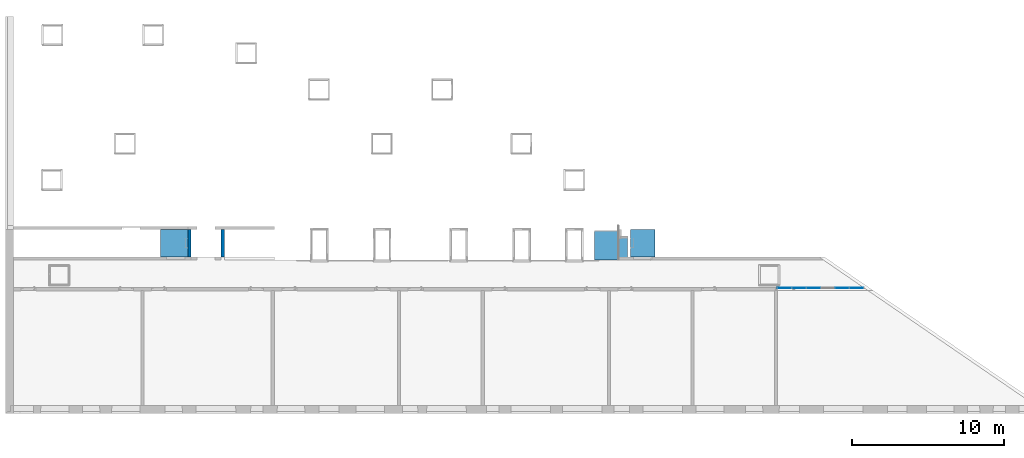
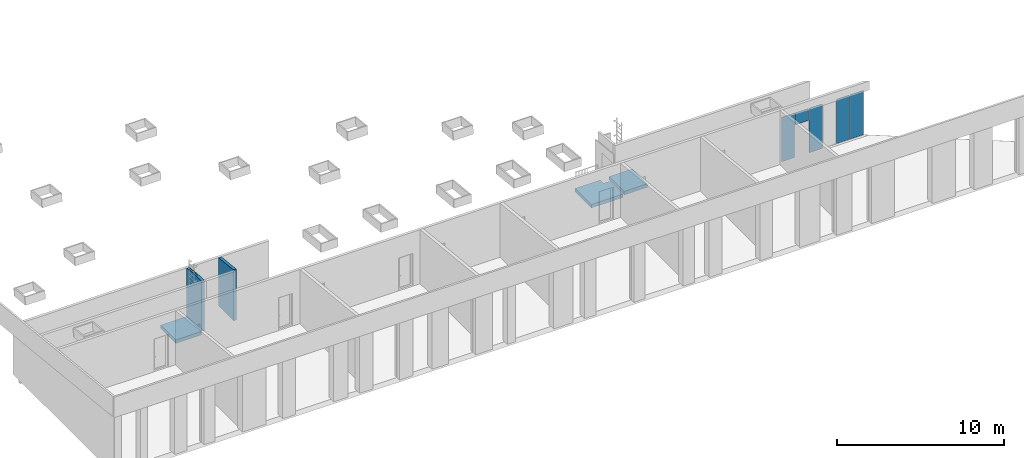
# One storey, part 2 of 23: 5 plates, 3 stairs, 2 walls, 1 element without a shape of its own.
"""IFC2X3 building model written with IfcOpenShell, lengths in millimetres."""

from ifc_helpers import new_model, entity, si_unit, converted_unit, derived_unit, money_unit, direction, frame, origin_with_axes, place, context, subcontext, project, spatial, faceted_brep, source, transform, mapped, material, type_object, element, aggregate, save


model = new_model("IFC2X3")

# Units and contexts
model_context = context("Model", 3, precision=0.01, world=origin_with_axes(), true_north=direction((0.0, 1.0)))
body_context = subcontext(model_context, "Body", "Model", "MODEL_VIEW")
ifc_project = project(units=[si_unit("LENGTHUNIT", "METRE", prefix="MILLI"), si_unit("AREAUNIT", "SQUARE_METRE"), si_unit("VOLUMEUNIT", "CUBIC_METRE"), converted_unit("PLANEANGLEUNIT", "DEGREE", entity("IfcPlaneAngleMeasure", 0.0174532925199), si_unit("PLANEANGLEUNIT", "RADIAN"), dimensions=[0, 0, 0, 0, 0, 0, 0]), si_unit("SOLIDANGLEUNIT", "STERADIAN"), money_unit("EUR"), converted_unit("TIMEUNIT", "Year", entity("IfcTimeMeasure", 31556926.0), si_unit("TIMEUNIT", "SECOND"), dimensions=[0, 0, 1, 0, 0, 0, 0]), si_unit("MASSUNIT", "GRAM", prefix="KILO"), si_unit("THERMODYNAMICTEMPERATUREUNIT", "DEGREE_CELSIUS"), si_unit("LUMINOUSINTENSITYUNIT", "LUMEN"), si_unit("ENERGYUNIT", "JOULE", prefix="MEGA"), derived_unit("THERMALCONDUCTANCEUNIT", [(si_unit("POWERUNIT", "WATT"), 1), (si_unit("LENGTHUNIT", "METRE"), -1), (si_unit("THERMODYNAMICTEMPERATUREUNIT", "KELVIN"), -1)]), derived_unit("SPECIFICHEATCAPACITYUNIT", [(si_unit("ENERGYUNIT", "JOULE"), 1), (si_unit("MASSUNIT", "GRAM", prefix="KILO"), -1), (si_unit("THERMODYNAMICTEMPERATUREUNIT", "KELVIN"), -1)]), derived_unit("MASSDENSITYUNIT", [(si_unit("MASSUNIT", "GRAM", prefix="KILO"), 1), (si_unit("VOLUMEUNIT", "CUBIC_METRE"), -1)])], contexts=[model_context])

# Site, building, storey
site_placement = place(None, origin_with_axes())
site = spatial("IfcSite", under=ifc_project, at=site_placement, Name="L.Koidula tn 11b", CompositionType="ELEMENT")
building_placement = place(site_placement, origin_with_axes())
building = spatial("IfcBuilding", under=site, at=building_placement, Name="Rakvere Riigigümnaasium", CompositionType="ELEMENT")
storey_placement = place(building_placement, frame((0.0, 0.0, 7440.0), z_axis=(0.0, 0.0, 1.0), x_axis=(1.0, 0.0, 0.0)))
storey = spatial("IfcBuildingStorey", under=building, at=storey_placement, Name="3.korrus +7,44", CompositionType="ELEMENT", Elevation=7440.0)

# Curtain wall, plates
curtain_wall_type = type_object("IfcCurtainWallType", Name="Curtain Wall Type", PredefinedType="NOTDEFINED")
curtain_wall_placement = place(storey_placement, frame((90131.4965427, 13261.4543717, 0.0), z_axis=(0.0, 0.0, 1.0), x_axis=(1.0, 0.0, 0.0)))
curtain_wall = element("IfcCurtainWall", 1, at=curtain_wall_placement, inside=storey, type_object=curtain_wall_type, Name="SKLF-30")
ifc_material_1 = material(Name="VKR-05_Klaas")
plate_type = type_object("IfcPlateType", Name="Siseklaasfassaad - Klaas 17 917 x 870 x 0", PredefinedType="CURTAIN_PANEL")
shared_shape = source(origin_with_axes(), body_context, "Body", "Brep", [
    faceted_brep([(931.999965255, 3270.00005635, -15.5), (15.0000063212, 3270.00005635, -15.5), (15.0000063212, 3270.00005635, 1.5), (931.999965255, 3270.00005635, 1.5), (931.999965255, 15.0000063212, -15.5), (15.0000063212, 15.0000063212, -15.5), (15.0000063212, 15.0000063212, 1.5), (931.999965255, 15.0000063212, 1.5)], [[[0, 1, 2, 3]], [[0, 4, 5, 1]], [[1, 5, 6, 2]], [[3, 2, 6, 7]], [[4, 0, 3, 7]], [[5, 4, 7, 6]]]),
])
plate_1_placement = place(curtain_wall_placement, frame((0.0, 0.0, 1895.00002089), z_axis=(0.0, 0.0, 1.0), x_axis=(1.0, 0.0, 0.0)))
plate_1 = element("IfcPlate", 2, at=plate_1_placement, type_object=plate_type, material=ifc_material_1, Name="Panel-Siseklaasf-027", ObjectType="CURTAIN_PANEL", context=body_context, shape_type="MappedRepresentation", body=[
    mapped(shared_shape, transform((473.5, 0.0, -1895.00002089), x_axis=(-1.0, 0.0, 0.0), y_axis=(0.0, 0.0, 1.0), z_axis=(0.0, 1.0, 0.0))),
])
plate_2_placement = place(curtain_wall_placement, frame((947.0, 0.0, 1895.00002089), z_axis=(0.0, 0.0, 1.0), x_axis=(1.0, 0.0, 0.0)))
plate_2 = element("IfcPlate", 3, at=plate_2_placement, type_object=plate_type, material=ifc_material_1, Name="Panel-Siseklaasf-016", ObjectType="CURTAIN_PANEL", context=body_context, shape_type="MappedRepresentation", body=[
    mapped(shared_shape, transform((473.5, 0.0, -1895.00002089), x_axis=(-1.0, 0.0, 0.0), y_axis=(0.0, 0.0, 1.0), z_axis=(0.0, 1.0, 0.0))),
])
plate_3_placement = place(curtain_wall_placement, frame((-2841.0, 0.0, 2842.50003134), z_axis=(0.0, 0.0, 1.0), x_axis=(1.0, 0.0, 0.0)))
plate_3 = element("IfcPlate", 4, at=plate_3_placement, type_object=plate_type, material=ifc_material_1, Name="Panel-Siseklaasf-019", ObjectType="CURTAIN_PANEL", context=body_context, shape_type="Brep", body=[
    faceted_brep([(-458.499991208, -15.5, 427.500027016), (458.499991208, -15.5, 427.500027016), (458.499991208, 1.5, 427.500027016), (-458.499991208, 1.5, 427.500027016), (-458.499991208, -15.5, -442.500031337), (458.499991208, -15.5, -442.500031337), (458.499991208, 1.5, -442.500031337), (-458.499991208, 1.5, -442.500031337)], [[[0, 1, 2, 3]], [[0, 4, 5, 1]], [[1, 5, 6, 2]], [[3, 2, 6, 7]], [[4, 0, 3, 7]], [[5, 4, 7, 6]]]),
])
plate_4_placement = place(curtain_wall_placement, frame((-3728.92857143, 0.0, 1967.14287505), z_axis=(0.0, 0.0, 1.0), x_axis=(1.0, 0.0, 0.0)))
plate_4 = element("IfcPlate", 5, at=plate_4_placement, type_object=plate_type, material=ifc_material_1, Name="Panel-Siseklaasf-020", ObjectType="CURTAIN_PANEL", context=body_context, shape_type="Brep", body=[
    faceted_brep([(-517.571442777, -15.5, 1302.8571813), (399.428565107, -15.5, 1302.8571813), (399.428565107, 1.5, 1302.8571813), (-517.571442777, 1.5, 1302.8571813), (-517.571442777, -15.5, -1952.14286873), (384.428558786, -15.5, -1952.14286873), (384.428558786, -15.5, 432.857108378), (399.428565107, -15.5, 432.857108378), (399.428565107, 1.5, 432.857108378), (384.428558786, 1.5, 432.857108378), (384.428558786, 1.5, -1952.14286873), (-517.571442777, 1.5, -1952.14286873)], [[[0, 1, 2, 3]], [[0, 4, 5, 6, 7, 1]], [[1, 7, 8, 2]], [[3, 2, 8, 9, 10, 11]], [[4, 0, 3, 11]], [[5, 4, 11, 10]], [[6, 5, 10, 9]], [[7, 6, 9, 8]]]),
])
plate_5_placement = place(curtain_wall_placement, frame((-1953.07143045, 0.0, 1967.14287505), z_axis=(0.0, 0.0, 1.0), x_axis=(1.0, 0.0, 0.0)))
plate_5 = element("IfcPlate", 6, at=plate_5_placement, type_object=plate_type, material=ifc_material_1, Name="Panel-Siseklaasf-018", ObjectType="CURTAIN_PANEL", context=body_context, shape_type="Brep", body=[
    faceted_brep([(-399.428534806, -15.5, 1302.8571813), (517.571424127, -15.5, 1302.8571813), (517.571424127, 1.5, 1302.8571813), (-399.428534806, 1.5, 1302.8571813), (-399.428534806, -15.5, 432.857108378), (-384.428577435, -15.5, 432.857108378), (-384.428577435, -15.5, -1952.14286873), (517.571424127, -15.5, -1952.14286873), (517.571424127, 1.5, -1952.14286873), (-384.428577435, 1.5, -1952.14286873), (-384.428577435, 1.5, 432.857108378), (-399.428534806, 1.5, 432.857108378)], [[[0, 1, 2, 3]], [[0, 4, 5, 6, 7, 1]], [[1, 7, 8, 2]], [[3, 2, 8, 9, 10, 11]], [[4, 0, 3, 11]], [[5, 4, 11, 10]], [[6, 5, 10, 9]], [[7, 6, 9, 8]]]),
])
aggregate(curtain_wall, [plate_1, plate_2, plate_3, plate_4, plate_5])

# Walls
ifc_material_2 = material(Name="Betoon element / plaat")
wall_type = type_object("IfcWallType", Name="SS-01 200", PredefinedType="NOTDEFINED")
wall_1_placement = place(storey_placement, frame((47199.9999878, 17110.4555095, 0.0), z_axis=(0.0, 0.0, 1.0), x_axis=(0.0, -1.0, 0.0)))
element("IfcWall", 7, at=wall_1_placement, inside=storey, type_object=wall_type, material=ifc_material_2, Name="Sisesein", context=body_context, shape_type="Brep", body=[
    faceted_brep([(0.0, -200.0, 3526.26468425), (0.0, 0.0, 3526.26164834), (0.0, 0.0, 0.0), (0.0, -200.0, 0.0), (1326.44653616, 4.29989199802e-06, 3665.67679569), (310.594179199, -200.0, 3558.90944759), (310.608644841, -99.8389585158, 3558.90944759), (1326.43209585, -99.98566763, 3665.67679569), (1809.97697926, 5.86733506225e-06, 3665.67679569), (1809.97697926, 5.86733506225e-06, 0.0), (1809.97697926, -200.0, 0.0), (1809.97697926, -200.0, 3665.67679569), (310.594179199, -200.0, 3665.67679569), (310.608644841, -99.8389585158, 3665.67679569)], [[[0, 1, 2, 3]], [[4, 1, 0, 5, 6, 7]], [[1, 4, 8, 9, 2]], [[3, 2, 9, 10]], [[5, 0, 3, 10, 11, 12]], [[12, 13, 6, 5]], [[13, 7, 6]], [[13, 12, 11, 8, 4, 7]], [[10, 9, 8, 11]]]),
])
wall_2_placement = place(storey_placement, frame((49199.9999937, 15300.4785302, 0.0), z_axis=(0.0, 0.0, 1.0), x_axis=(1.03481462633e-09, 1.0, 0.0)))
element("IfcWall", 8, at=wall_2_placement, inside=storey, type_object=wall_type, material=ifc_material_2, Name="Sisesein", context=body_context, shape_type="Brep", body=[
    faceted_brep([(1809.97698667, 1.87299065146e-06, 3526.23128845), (1809.97698646, -199.999998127, 3526.22825258), (1809.9769864, -199.999998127, 0.0), (1809.97698661, 1.87299065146e-06, 0.0), (-8.31825275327e-07, -200.0, 3716.46449769), (-5.96046945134e-06, 0.0, 3716.46753412), (-5.75900749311e-06, -200.0, 0.0), (-5.96046945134e-06, 0.0, 0.0)], [[[0, 1, 2, 3]], [[4, 1, 0, 5]], [[1, 4, 6, 2]], [[6, 7, 3, 2]], [[5, 0, 3, 7]], [[4, 5, 7, 6]]]),
])

# Stairs
ifc_material_3 = material(Name="Betoon")
stair_1_placement = place(storey_placement, frame((47199.9999878, 15300.475806, 0.0), z_axis=(0.0, 0.0, 1.0), x_axis=(1.0, 0.0, 0.0)))
element("IfcStair", 9, at=stair_1_placement, inside=storey, material=ifc_material_3, Name="TR-05", ShapeType="NOTDEFINED", context=body_context, shape_type="Brep", body=[
    faceted_brep([(-1999.9999909, 0.0027242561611, 0.0), (-1999.9999909, 0.0027242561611, -250.0), (-199.999992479, -2.00794811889e-05, -250.0), (-199.999992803, -2.00794776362e-05, 0.0), (-1999.9999909, 1809.97968309, 0.0), (-1999.9999909, 1809.97968309, -250.0), (-199.999990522, 1809.97970299, -250.0), (-199.999993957, 1809.97970299, 0.0)], [[[0, 1, 2, 3]], [[4, 5, 1, 0]], [[6, 2, 1, 5]], [[7, 3, 2, 6]], [[7, 4, 0, 3]], [[6, 5, 4, 7]]]),
])
stair_2_placement = place(storey_placement, frame((75989.9798207, 15300.4789529, 0.0), z_axis=(0.0, 0.0, 1.0), x_axis=(1.0, 0.0, 0.0)))
element("IfcStair", 10, at=stair_2_placement, inside=storey, material=ifc_material_3, Name="TR-04", ShapeType="NOTDEFINED", context=body_context, shape_type="Brep", body=[
    faceted_brep([(1800.0202041, 1809.97745642, -250.0), (200.00212238, 1809.97656222, -250.0), (200.002254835, 1809.97656032, 0.0), (1800.0202041, 1809.97745642, 0.0), (1800.0202041, 0.0, -250.0), (200.002321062, 0.0, -250.0), (200.002321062, 0.0, 0.0), (1800.0202041, 0.0, 0.0)], [[[0, 1, 2, 3]], [[4, 5, 1, 0]], [[5, 6, 2, 1]], [[3, 2, 6, 7]], [[3, 7, 4, 0]], [[7, 6, 5, 4]]]),
])
stair_3_placement = place(storey_placement, frame((75547.4821418, 17050.4555058, 0.0), z_axis=(0.0, 0.0, 1.0), x_axis=(1.0, 0.0, 0.0)))
element("IfcStair", 11, at=stair_3_placement, inside=storey, material=ifc_material_2, Name="TR-02", ShapeType="NOTDEFINED", context=body_context, shape_type="Brep", body=[
    faceted_brep([(-1747.48407292, 0.0, -250.0), (-1747.48407292, 0.0, 0.0), (0.0, 0.0, 0.0), (0.0, 0.0, -250.0), (-1747.48407292, -1949.97793142, -250.0), (-1747.48407292, -1949.97793142, 0.0), (442.500024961, -1949.97736621, 0.0), (442.499781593, -389.999993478, 0.0), (0.0, -389.999993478, 0.0), (0.0, -389.999993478, -250.0), (442.500024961, -1949.97736621, -250.0), (442.499781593, -389.999993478, -250.0)], [[[0, 1, 2, 3]], [[4, 5, 1, 0]], [[6, 7, 8, 2, 1, 5]], [[3, 2, 8, 9]], [[10, 4, 0, 3, 9, 11]], [[10, 6, 5, 4]], [[11, 7, 6, 10]], [[9, 8, 7, 11]]]),
])

save(model, "model.ifc")
